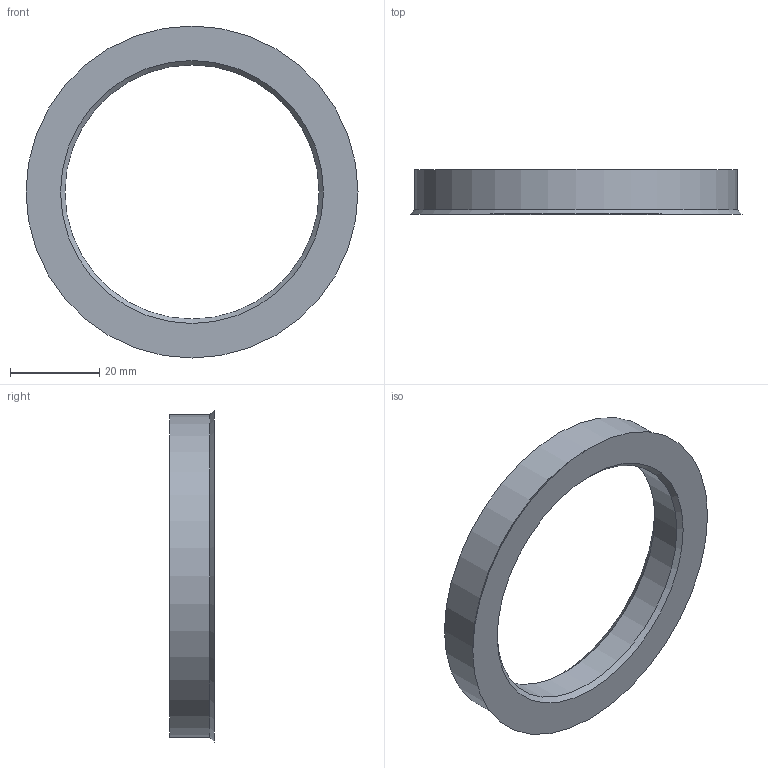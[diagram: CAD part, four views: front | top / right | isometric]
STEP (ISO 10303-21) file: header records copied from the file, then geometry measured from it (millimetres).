
FILE_DESCRIPTION(/* description */ (''),/* implementation_level */ '2;1');
FILE_NAME(/* name */ 'G:\CAD Library\Team Tasks\DIPP\11th Intake\Bradley Coles\Design Drafting\Random\Hub Rings\ipt\HubRing_72.6-57.1.stp',/* time_stamp */ '2025-07-22T13:44:37+08:00',/* author */ ('BCOLES'),/* organization */ (''),/* preprocessor_version */ 'ST-DEVELOPER v18.1',/* originating_system */ 'Autodesk Inventor 2022',/* authorisation */ '');
FILE_SCHEMA (('AUTOMOTIVE_DESIGN { 1 0 10303 214 3 1 1 }'));
Length unit declared in the file: millimetre
Products named in the file (1): HubRing_72.6-57.1
Bounding box: 74.6 x 10 x 74.6 mm (x, y, z)
Volume: 15446.5 mm3; surface area: 7253.9 mm2
Topology: 1 solids, 1 shells, 7 faces, 13 edges, 8 vertices
Faces by surface type: cone 3, cylinder 2, plane 2
Full cylindrical faces by diameter (mm): 57.1 x1, 72.6 x1
Entity records: 226 total; most frequent: DIRECTION 37, CARTESIAN_POINT 29, ORIENTED_EDGE 26, AXIS2_PLACEMENT_3D 16, EDGE_CURVE 13, EDGE_LOOP 9, CIRCLE 8, VERTEX_POINT 8
